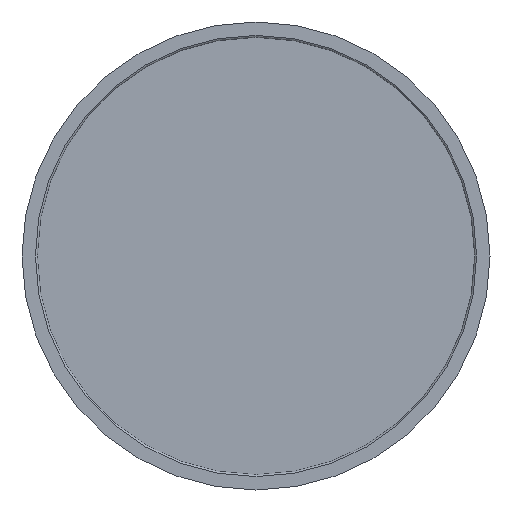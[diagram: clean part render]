
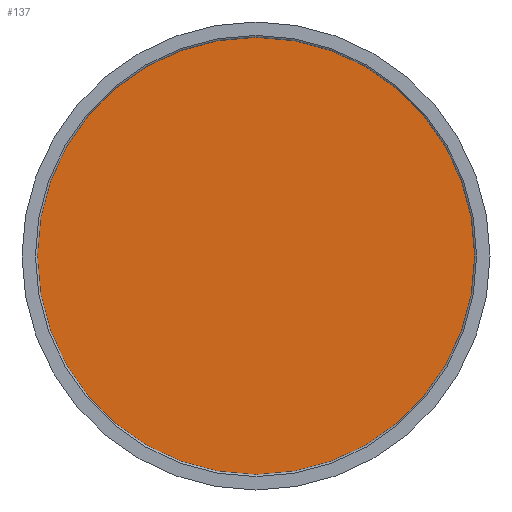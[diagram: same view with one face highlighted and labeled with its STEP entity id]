
A CAD part, front view. The second image highlights one B-rep face of the part: STEP entity #137.
In plain terms, the highlighted planar face has unit normal (0, -1, 0).
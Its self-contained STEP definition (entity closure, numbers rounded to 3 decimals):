
#137 = ADVANCED_FACE( '', ( #313 ), #314, .T. );
#313 = FACE_OUTER_BOUND( '', #547, .T. );
#314 = PLANE( '', #548 );
#547 = EDGE_LOOP( '', ( #971 ) );
#548 = AXIS2_PLACEMENT_3D( '', #972, #973, #974 );
#971 = ORIENTED_EDGE( '', *, *, #1564, .T. );
#972 = CARTESIAN_POINT( '', ( -57.5, 17.5, 0. ) );
#973 = DIRECTION( '', ( 0., -1., 0. ) );
#974 = DIRECTION( '', ( 1., 0., 0. ) );
#1564 = EDGE_CURVE( '', #1851, #1851, #1852, .T. );
#1851 = VERTEX_POINT( '', #2532 );
#1852 = CIRCLE( '', #2533, 57.5 );
#2532 = CARTESIAN_POINT( '', ( 57.5, 17.5, 0. ) );
#2533 = AXIS2_PLACEMENT_3D( '', #2935, #2936, #2937 );
#2935 = CARTESIAN_POINT( '', ( 0., 17.5, 0. ) );
#2936 = DIRECTION( '', ( 0., -1., 0. ) );
#2937 = DIRECTION( '', ( 1., 0., 0. ) );
